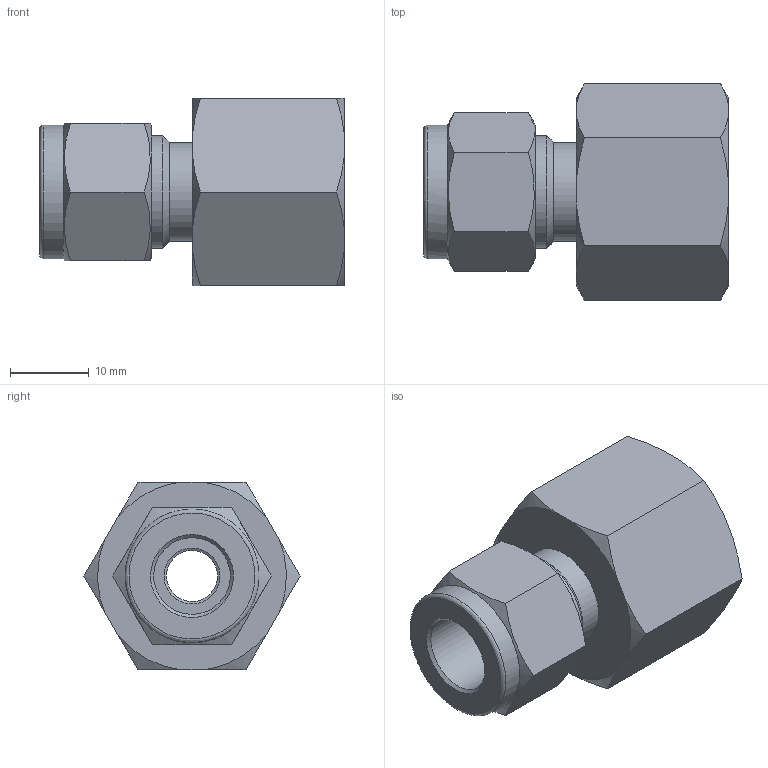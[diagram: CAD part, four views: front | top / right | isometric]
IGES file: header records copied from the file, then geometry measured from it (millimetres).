
Global section: file name: SGC-6-6G; native system: Autodesk Inventor 2016; preprocessor: unknown; author: DESIGNPC2; date: 20151219.144037; units: millimetre
Bounding box: 38.71 x 27.48 x 23.8 mm (x, y, z)
Volume: 9447.2 mm3; surface area: 5098.4 mm2
Topology: 1 solids, 1 shells, 45 faces, 125 edges, 87 vertices
Faces by surface type: bspline 45
